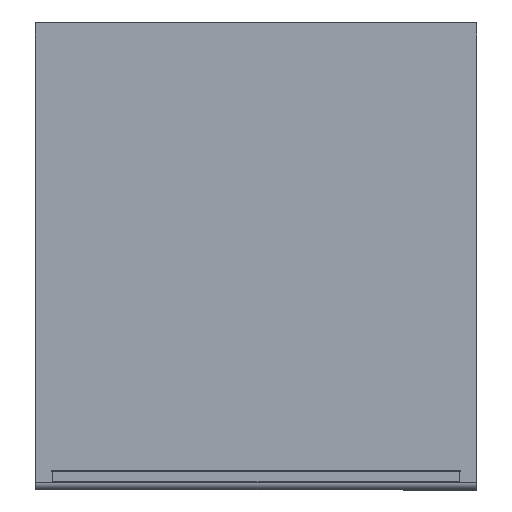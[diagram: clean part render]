
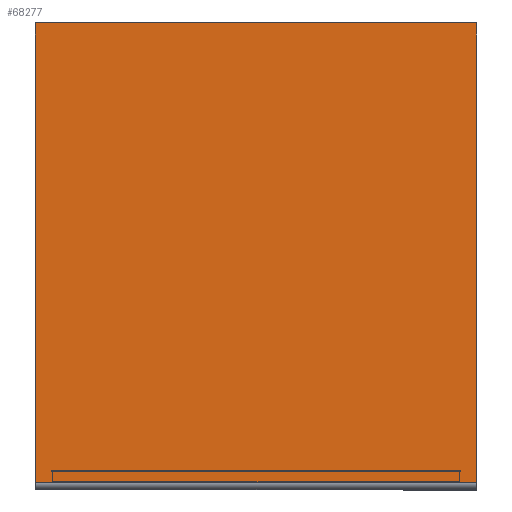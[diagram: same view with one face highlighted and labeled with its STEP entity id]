
A CAD part, top view. The second image highlights one B-rep face of the part: STEP entity #68277.
In plain terms, the highlighted planar face has unit normal (0, 0, 1).
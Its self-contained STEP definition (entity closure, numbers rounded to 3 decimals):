
#6969=LINE('',#106824,#14320);
#6970=LINE('',#106826,#14321);
#6971=LINE('',#106827,#14322);
#6972=LINE('',#106829,#14323);
#14320=VECTOR('',#87652,1000.);
#14321=VECTOR('',#87653,1000.);
#14322=VECTOR('',#87654,1000.);
#14323=VECTOR('',#87655,1000.);
#29711=ORIENTED_EDGE('',*,*,#41780,.F.);
#29712=ORIENTED_EDGE('',*,*,#41781,.T.);
#29713=ORIENTED_EDGE('',*,*,#41782,.T.);
#29714=ORIENTED_EDGE('',*,*,#41783,.T.);
#41780=EDGE_CURVE('',#49000,#49009,#6969,.T.);
#41781=EDGE_CURVE('',#49000,#49006,#6970,.T.);
#41782=EDGE_CURVE('',#49006,#49010,#6971,.T.);
#41783=EDGE_CURVE('',#49010,#49009,#6972,.T.);
#49000=VERTEX_POINT('',#106804);
#49006=VERTEX_POINT('',#106817);
#49009=VERTEX_POINT('',#106825);
#49010=VERTEX_POINT('',#106828);
#56452=EDGE_LOOP('',(#29711,#29712,#29713,#29714));
#61866=FACE_BOUND('',#56452,.T.);
#65361=PLANE('',#73080);
#68277=ADVANCED_FACE('',(#61866),#65361,.T.);
#73080=AXIS2_PLACEMENT_3D('',#106823,#87650,#87651);
#87650=DIRECTION('',(0.,0.,1.));
#87651=DIRECTION('',(0.,-1.,0.));
#87652=DIRECTION('',(1.,0.,0.));
#87653=DIRECTION('',(0.,-1.,0.));
#87654=DIRECTION('',(1.,0.,0.));
#87655=DIRECTION('',(0.,1.,0.));
#106804=CARTESIAN_POINT('',(-329.298,343.648,21.));
#106817=CARTESIAN_POINT('',(-329.298,-344.35,21.));
#106823=CARTESIAN_POINT('',(-330.,344.35,21.));
#106824=CARTESIAN_POINT('',(-330.,343.648,21.));
#106825=CARTESIAN_POINT('',(329.298,343.648,21.));
#106826=CARTESIAN_POINT('',(-329.298,343.648,21.));
#106827=CARTESIAN_POINT('',(-330.,-344.35,21.));
#106828=CARTESIAN_POINT('',(329.298,-344.35,21.));
#106829=CARTESIAN_POINT('',(329.298,-344.35,21.));
